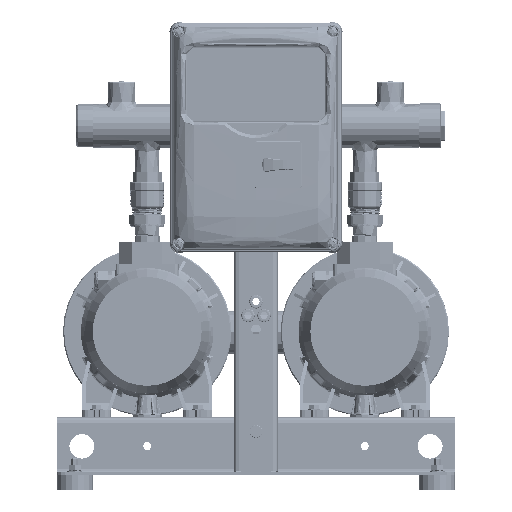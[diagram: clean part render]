
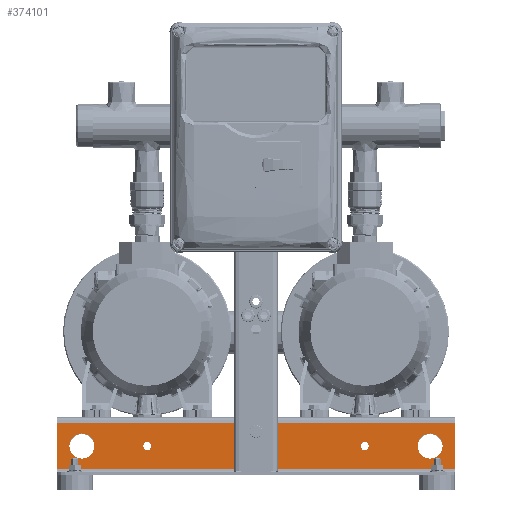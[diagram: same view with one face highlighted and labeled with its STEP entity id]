
A CAD part, top view. The second image highlights one B-rep face of the part: STEP entity #374101.
In plain terms, the highlighted planar face has unit normal (0, 0, 1) as drawn and (0, 0, -1) by its records, which use the part's own axes.
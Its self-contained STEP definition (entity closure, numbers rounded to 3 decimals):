
#367832=DIRECTION('',(1.,0.,0.));
#367833=VECTOR('',#367832,550.);
#367834=CARTESIAN_POINT('',(-275.,-8.,-150.));
#367835=LINE('',#367834,#367833);
#370062=DIRECTION('',(0.,1.,0.));
#370063=VECTOR('',#370062,64.);
#370064=CARTESIAN_POINT('',(-275.,-72.,-150.));
#370065=LINE('',#370064,#370063);
#370083=DIRECTION('',(1.,0.,0.));
#370084=VECTOR('',#370083,550.);
#370085=CARTESIAN_POINT('',(-275.,-72.,-150.));
#370086=LINE('',#370085,#370084);
#370113=DIRECTION('',(0.,1.,0.));
#370114=VECTOR('',#370113,26.);
#370115=CARTESIAN_POINT('',(-26.7,-40.,-150.));
#370116=LINE('',#370115,#370114);
#370120=DIRECTION('',(1.,0.,0.));
#370121=VECTOR('',#370120,3.6);
#370122=CARTESIAN_POINT('',(-30.3,-40.,-150.));
#370123=LINE('',#370122,#370121);
#370127=DIRECTION('',(0.,-1.,0.));
#370128=VECTOR('',#370127,26.);
#370129=CARTESIAN_POINT('',(-30.3,-14.,-150.));
#370130=LINE('',#370129,#370128);
#370134=DIRECTION('',(-1.,0.,0.));
#370135=VECTOR('',#370134,3.6);
#370136=CARTESIAN_POINT('',(-26.7,-14.,-150.));
#370137=LINE('',#370136,#370135);
#370141=DIRECTION('',(0.,1.,0.));
#370142=VECTOR('',#370141,26.);
#370143=CARTESIAN_POINT('',(30.3,-40.,-150.));
#370144=LINE('',#370143,#370142);
#370148=DIRECTION('',(1.,0.,0.));
#370149=VECTOR('',#370148,3.6);
#370150=CARTESIAN_POINT('',(26.7,-40.,-150.));
#370151=LINE('',#370150,#370149);
#370155=DIRECTION('',(0.,-1.,0.));
#370156=VECTOR('',#370155,26.);
#370157=CARTESIAN_POINT('',(26.7,-14.,-150.));
#370158=LINE('',#370157,#370156);
#370162=DIRECTION('',(-1.,0.,0.));
#370163=VECTOR('',#370162,3.6);
#370164=CARTESIAN_POINT('',(30.3,-14.,-150.));
#370165=LINE('',#370164,#370163);
#370169=CARTESIAN_POINT('',(0.,-20.,-150.));
#370170=DIRECTION('',(0.,0.,-1.));
#370171=DIRECTION('',(1.,0.,0.));
#370172=AXIS2_PLACEMENT_3D('',#370169,#370170,#370171);
#370177=CARTESIAN_POINT('',(0.,-20.,-150.));
#370178=DIRECTION('',(0.,0.,-1.));
#370179=DIRECTION('',(-1.,0.,0.));
#370180=AXIS2_PLACEMENT_3D('',#370177,#370178,#370179);
#370185=CARTESIAN_POINT('',(-240.,-40.,-150.));
#370186=DIRECTION('',(0.,0.,1.));
#370187=DIRECTION('',(-1.,0.,0.));
#370188=AXIS2_PLACEMENT_3D('',#370185,#370186,#370187);
#370193=CARTESIAN_POINT('',(-240.,-40.,-150.));
#370194=DIRECTION('',(0.,0.,1.));
#370195=DIRECTION('',(1.,0.,0.));
#370196=AXIS2_PLACEMENT_3D('',#370193,#370194,#370195);
#370201=CARTESIAN_POINT('',(240.,-40.,-150.));
#370202=DIRECTION('',(0.,0.,1.));
#370203=DIRECTION('',(-1.,0.,0.));
#370204=AXIS2_PLACEMENT_3D('',#370201,#370202,#370203);
#370209=CARTESIAN_POINT('',(240.,-40.,-150.));
#370210=DIRECTION('',(0.,0.,1.));
#370211=DIRECTION('',(1.,0.,0.));
#370212=AXIS2_PLACEMENT_3D('',#370209,#370210,#370211);
#370217=CARTESIAN_POINT('',(-150.,-40.,-150.));
#370218=DIRECTION('',(0.,0.,1.));
#370219=DIRECTION('',(1.,0.,0.));
#370220=AXIS2_PLACEMENT_3D('',#370217,#370218,#370219);
#370225=CARTESIAN_POINT('',(-150.,-40.,-150.));
#370226=DIRECTION('',(0.,0.,1.));
#370227=DIRECTION('',(-1.,0.,0.));
#370228=AXIS2_PLACEMENT_3D('',#370225,#370226,#370227);
#370233=CARTESIAN_POINT('',(150.,-40.,-150.));
#370234=DIRECTION('',(0.,0.,-1.));
#370235=DIRECTION('',(-1.,0.,0.));
#370236=AXIS2_PLACEMENT_3D('',#370233,#370234,#370235);
#370241=CARTESIAN_POINT('',(150.,-40.,-150.));
#370242=DIRECTION('',(0.,0.,-1.));
#370243=DIRECTION('',(1.,0.,0.));
#370244=AXIS2_PLACEMENT_3D('',#370241,#370242,#370243);
#370263=DIRECTION('',(0.,1.,0.));
#370264=VECTOR('',#370263,64.);
#370265=CARTESIAN_POINT('',(275.,-72.,-150.));
#370266=LINE('',#370265,#370264);
#371828=CARTESIAN_POINT('',(-275.,-72.,-150.));
#371829=CARTESIAN_POINT('',(-275.,-8.,-150.));
#371830=VERTEX_POINT('',#371828);
#371831=VERTEX_POINT('',#371829);
#371832=CARTESIAN_POINT('',(275.,-72.,-150.));
#371833=CARTESIAN_POINT('',(275.,-8.,-150.));
#371834=VERTEX_POINT('',#371832);
#371835=VERTEX_POINT('',#371833);
#372188=CARTESIAN_POINT('',(-26.7,-40.,-150.));
#372189=CARTESIAN_POINT('',(-26.7,-14.,-150.));
#372190=VERTEX_POINT('',#372188);
#372191=VERTEX_POINT('',#372189);
#372192=CARTESIAN_POINT('',(-30.3,-14.,-150.));
#372193=VERTEX_POINT('',#372192);
#372194=CARTESIAN_POINT('',(-30.3,-40.,-150.));
#372195=VERTEX_POINT('',#372194);
#372196=CARTESIAN_POINT('',(30.3,-40.,-150.));
#372197=CARTESIAN_POINT('',(30.3,-14.,-150.));
#372198=VERTEX_POINT('',#372196);
#372199=VERTEX_POINT('',#372197);
#372200=CARTESIAN_POINT('',(26.7,-14.,-150.));
#372201=VERTEX_POINT('',#372200);
#372202=CARTESIAN_POINT('',(26.7,-40.,-150.));
#372203=VERTEX_POINT('',#372202);
#372220=CARTESIAN_POINT('',(6.25,-20.,-150.));
#372221=CARTESIAN_POINT('',(-6.25,-20.,-150.));
#372222=VERTEX_POINT('',#372220);
#372223=VERTEX_POINT('',#372221);
#372244=CARTESIAN_POINT('',(-257.5,-40.,-150.));
#372245=CARTESIAN_POINT('',(-222.5,-40.,-150.));
#372246=VERTEX_POINT('',#372244);
#372247=VERTEX_POINT('',#372245);
#372248=CARTESIAN_POINT('',(222.5,-40.,-150.));
#372249=CARTESIAN_POINT('',(257.5,-40.,-150.));
#372250=VERTEX_POINT('',#372248);
#372251=VERTEX_POINT('',#372249);
#372344=CARTESIAN_POINT('',(-143.75,-40.,-150.));
#372345=CARTESIAN_POINT('',(-156.25,-40.,-150.));
#372346=VERTEX_POINT('',#372344);
#372347=VERTEX_POINT('',#372345);
#372356=CARTESIAN_POINT('',(143.75,-40.,-150.));
#372358=VERTEX_POINT('',#372356);
#372364=CARTESIAN_POINT('',(156.25,-40.,-150.));
#372366=VERTEX_POINT('',#372364);
#374039=CARTESIAN_POINT('',(-275.,-76.,-150.));
#374040=DIRECTION('',(0.,0.,-1.));
#374041=DIRECTION('',(0.,1.,0.));
#374042=AXIS2_PLACEMENT_3D('',#374039,#374040,#374041);
#374043=PLANE('',#374042);
#374044=ORIENTED_EDGE('',*,*,#373992,.F.);
#374045=ORIENTED_EDGE('',*,*,#374029,.T.);
#374047=ORIENTED_EDGE('',*,*,#374046,.T.);
#374048=ORIENTED_EDGE('',*,*,#373100,.F.);
#374049=EDGE_LOOP('',(#374044,#374045,#374047,#374048));
#374050=FACE_OUTER_BOUND('',#374049,.F.);
#374052=ORIENTED_EDGE('',*,*,#374051,.F.);
#374054=ORIENTED_EDGE('',*,*,#374053,.F.);
#374056=ORIENTED_EDGE('',*,*,#374055,.F.);
#374058=ORIENTED_EDGE('',*,*,#374057,.F.);
#374059=EDGE_LOOP('',(#374052,#374054,#374056,#374058));
#374060=FACE_BOUND('',#374059,.F.);
#374062=ORIENTED_EDGE('',*,*,#374061,.F.);
#374064=ORIENTED_EDGE('',*,*,#374063,.F.);
#374066=ORIENTED_EDGE('',*,*,#374065,.F.);
#374068=ORIENTED_EDGE('',*,*,#374067,.F.);
#374069=EDGE_LOOP('',(#374062,#374064,#374066,#374068));
#374070=FACE_BOUND('',#374069,.F.);
#374072=ORIENTED_EDGE('',*,*,#374071,.T.);
#374074=ORIENTED_EDGE('',*,*,#374073,.T.);
#374075=EDGE_LOOP('',(#374072,#374074));
#374076=FACE_BOUND('',#374075,.F.);
#374078=ORIENTED_EDGE('',*,*,#374077,.F.);
#374080=ORIENTED_EDGE('',*,*,#374079,.F.);
#374081=EDGE_LOOP('',(#374078,#374080));
#374082=FACE_BOUND('',#374081,.F.);
#374084=ORIENTED_EDGE('',*,*,#374083,.F.);
#374086=ORIENTED_EDGE('',*,*,#374085,.F.);
#374087=EDGE_LOOP('',(#374084,#374086));
#374088=FACE_BOUND('',#374087,.F.);
#374090=ORIENTED_EDGE('',*,*,#374089,.F.);
#374092=ORIENTED_EDGE('',*,*,#374091,.F.);
#374093=EDGE_LOOP('',(#374090,#374092));
#374094=FACE_BOUND('',#374093,.F.);
#374096=ORIENTED_EDGE('',*,*,#374095,.T.);
#374098=ORIENTED_EDGE('',*,*,#374097,.T.);
#374099=EDGE_LOOP('',(#374096,#374098));
#374100=FACE_BOUND('',#374099,.F.);
#370173=CIRCLE('',#370172,6.25);
#370181=CIRCLE('',#370180,6.25);
#370189=CIRCLE('',#370188,17.5);
#370197=CIRCLE('',#370196,17.5);
#370205=CIRCLE('',#370204,17.5);
#370213=CIRCLE('',#370212,17.5);
#370221=CIRCLE('',#370220,6.25);
#370229=CIRCLE('',#370228,6.25);
#370237=CIRCLE('',#370236,6.25);
#370245=CIRCLE('',#370244,6.25);
#373100=EDGE_CURVE('',#371831,#371835,#367835,.T.);
#373992=EDGE_CURVE('',#371830,#371831,#370065,.T.);
#374029=EDGE_CURVE('',#371830,#371834,#370086,.T.);
#374046=EDGE_CURVE('',#371834,#371835,#370266,.T.);
#374051=EDGE_CURVE('',#372190,#372191,#370116,.T.);
#374053=EDGE_CURVE('',#372195,#372190,#370123,.T.);
#374055=EDGE_CURVE('',#372193,#372195,#370130,.T.);
#374057=EDGE_CURVE('',#372191,#372193,#370137,.T.);
#374061=EDGE_CURVE('',#372198,#372199,#370144,.T.);
#374063=EDGE_CURVE('',#372203,#372198,#370151,.T.);
#374065=EDGE_CURVE('',#372201,#372203,#370158,.T.);
#374067=EDGE_CURVE('',#372199,#372201,#370165,.T.);
#374071=EDGE_CURVE('',#372222,#372223,#370173,.T.);
#374073=EDGE_CURVE('',#372223,#372222,#370181,.T.);
#374077=EDGE_CURVE('',#372246,#372247,#370189,.T.);
#374079=EDGE_CURVE('',#372247,#372246,#370197,.T.);
#374083=EDGE_CURVE('',#372250,#372251,#370205,.T.);
#374085=EDGE_CURVE('',#372251,#372250,#370213,.T.);
#374089=EDGE_CURVE('',#372346,#372347,#370221,.T.);
#374091=EDGE_CURVE('',#372347,#372346,#370229,.T.);
#374095=EDGE_CURVE('',#372358,#372366,#370237,.T.);
#374097=EDGE_CURVE('',#372366,#372358,#370245,.T.);
#374101=ADVANCED_FACE('',(#374050,#374060,#374070,#374076,#374082,#374088,
#374094,#374100),#374043,.T.);
